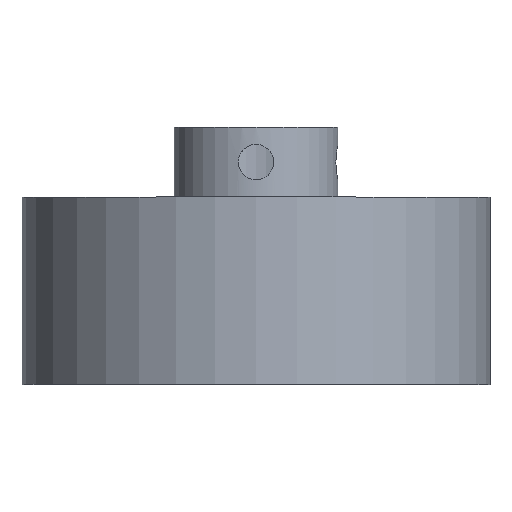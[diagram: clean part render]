
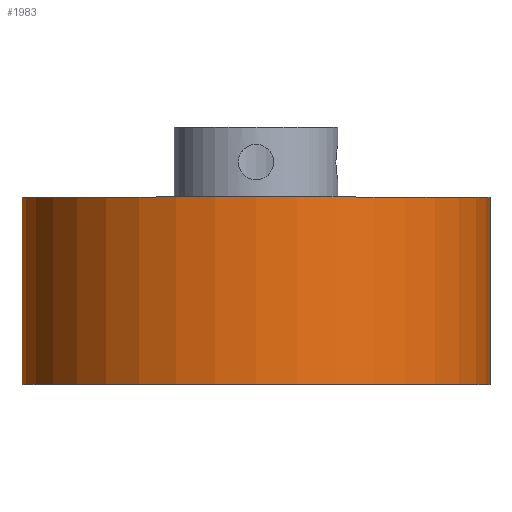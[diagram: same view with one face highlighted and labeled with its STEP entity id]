
A CAD part, top view. The second image highlights one B-rep face of the part: STEP entity #1983.
In plain terms, the highlighted cylindrical face has radius 31.75 mm (diameter 63.5 mm), a full revolution.
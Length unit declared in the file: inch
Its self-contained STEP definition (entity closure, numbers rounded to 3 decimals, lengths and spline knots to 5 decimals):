
#178=FACE_OUTER_BOUND('',#272,.T.);
#272=EDGE_LOOP('',(#1531,#1532,#1533,#1534));
#458=LINE('',#3318,#604);
#604=VECTOR('',#2772,1.25);
#723=CIRCLE('',#2213,1.25);
#724=CIRCLE('',#2214,1.25);
#899=VERTEX_POINT('',#3315);
#900=VERTEX_POINT('',#3317);
#1170=EDGE_CURVE('',#899,#899,#723,.T.);
#1171=EDGE_CURVE('',#899,#900,#458,.T.);
#1172=EDGE_CURVE('',#900,#900,#724,.T.);
#1531=ORIENTED_EDGE('',*,*,#1170,.F.);
#1532=ORIENTED_EDGE('',*,*,#1171,.T.);
#1533=ORIENTED_EDGE('',*,*,#1172,.T.);
#1534=ORIENTED_EDGE('',*,*,#1171,.F.);
#1800=CYLINDRICAL_SURFACE('',#2212,1.25);
#1983=ADVANCED_FACE('',(#178),#1800,.T.);
#2212=AXIS2_PLACEMENT_3D('',#3314,#2768,#2769);
#2213=AXIS2_PLACEMENT_3D('',#3316,#2770,#2771);
#2214=AXIS2_PLACEMENT_3D('',#3319,#2773,#2774);
#2768=DIRECTION('center_axis',(0.,1.,0.));
#2769=DIRECTION('ref_axis',(-1.,0.,0.));
#2770=DIRECTION('center_axis',(0.,1.,0.));
#2771=DIRECTION('ref_axis',(-1.,0.,0.));
#2772=DIRECTION('',(0.,-1.,0.));
#2773=DIRECTION('center_axis',(0.,1.,0.));
#2774=DIRECTION('ref_axis',(-1.,0.,0.));
#3314=CARTESIAN_POINT('Origin',(0.,0.,0.));
#3315=CARTESIAN_POINT('',(1.25,1.,0.));
#3316=CARTESIAN_POINT('Origin',(0.,1.,0.));
#3317=CARTESIAN_POINT('',(1.25,0.,0.));
#3318=CARTESIAN_POINT('',(1.25,0.,0.));
#3319=CARTESIAN_POINT('Origin',(0.,0.,0.));
